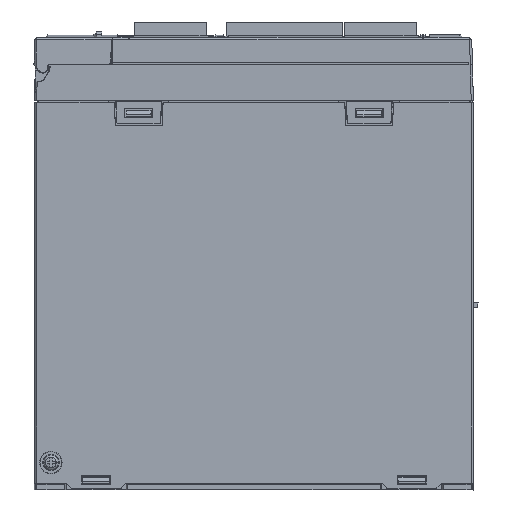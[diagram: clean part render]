
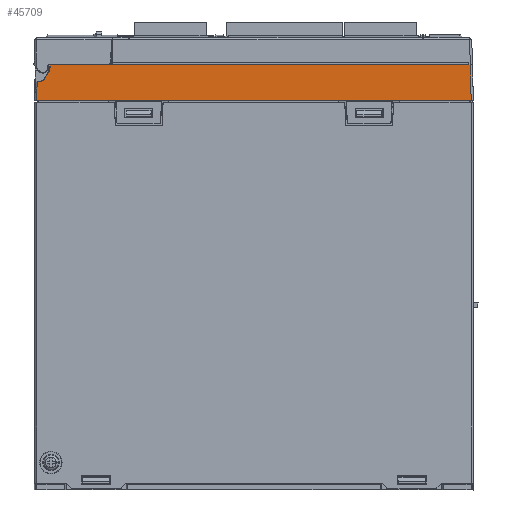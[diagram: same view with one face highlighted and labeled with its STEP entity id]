
A CAD part, left-side view. The second image highlights one B-rep face of the part: STEP entity #45709.
In plain terms, the highlighted planar face has unit normal (-1, 0, 0).
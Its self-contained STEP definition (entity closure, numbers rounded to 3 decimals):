
#4212=DIRECTION('',(0.,1.,0.));
#4213=VECTOR('',#4212,0.661);
#4214=CARTESIAN_POINT('',(0.,-158.859,
155.));
#4215=LINE('',#4214,#4213);
#4235=DIRECTION('',(0.,-0.026,1.));
#4236=VECTOR('',#4235,6.827);
#4237=CARTESIAN_POINT('',(0.,-0.8,142.));
#4238=LINE('',#4237,#4236);
#4239=CARTESIAN_POINT('',(0.,-1.845,151.));
#4240=DIRECTION('',(-1.,0.,0.));
#4241=DIRECTION('',(0.,0.,-1.));
#4242=AXIS2_PLACEMENT_3D('',#4239,#4240,#4241);
#4244=DIRECTION('',(0.,-0.5,0.866));
#4245=VECTOR('',#4244,3.175);
#4246=CARTESIAN_POINT('',(0.,-3.729,
149.913));
#4247=LINE('',#4246,#4245);
#4248=CARTESIAN_POINT('',(0.,-3.,154.));
#4249=DIRECTION('',(-1.,0.,0.));
#4250=DIRECTION('',(0.,-0.866,-0.5));
#4251=AXIS2_PLACEMENT_3D('',#4248,#4249,#4250);
#4253=DIRECTION('',(0.,0.,1.));
#4254=VECTOR('',#4253,0.07);
#4255=CARTESIAN_POINT('',(0.,-7.122,
154.93));
#4256=LINE('',#4255,#4254);
#4257=DIRECTION('',(0.,-1.,0.));
#4258=VECTOR('',#4257,21.203);
#4259=CARTESIAN_POINT('',(0.,-7.122,155.));
#4260=LINE('',#4259,#4258);
#4261=DIRECTION('',(0.,-1.,0.));
#4262=VECTOR('',#4261,129.873);
#4263=CARTESIAN_POINT('',(0.,-28.325,155.));
#4264=LINE('',#4263,#4262);
#4265=DIRECTION('',(0.,-0.026,-1.));
#4266=VECTOR('',#4265,13.004);
#4267=CARTESIAN_POINT('',(0.,-158.859,
155.));
#4268=LINE('',#4267,#4266);
#4269=DIRECTION('',(0.,1.,0.));
#4270=VECTOR('',#4269,26.2);
#4271=CARTESIAN_POINT('',(0.,-159.2,142.));
#4272=LINE('',#4271,#4270);
#4273=DIRECTION('',(0.,0.,1.));
#4274=VECTOR('',#4273,0.035);
#4275=CARTESIAN_POINT('',(0.,-133.,142.));
#4276=LINE('',#4275,#4274);
#4277=DIRECTION('',(0.,1.,0.));
#4278=VECTOR('',#4277,22.);
#4279=CARTESIAN_POINT('',(0.,-133.,142.035));
#4280=LINE('',#4279,#4278);
#4281=DIRECTION('',(0.,0.,-1.));
#4282=VECTOR('',#4281,0.035);
#4283=CARTESIAN_POINT('',(0.,-111.,142.035));
#4284=LINE('',#4283,#4282);
#4285=DIRECTION('',(0.,1.,0.));
#4286=VECTOR('',#4285,62.);
#4287=CARTESIAN_POINT('',(0.,-111.,142.));
#4288=LINE('',#4287,#4286);
#4289=DIRECTION('',(0.,0.,1.));
#4290=VECTOR('',#4289,0.035);
#4291=CARTESIAN_POINT('',(0.,-49.,142.));
#4292=LINE('',#4291,#4290);
#4293=DIRECTION('',(0.,1.,0.));
#4294=VECTOR('',#4293,22.);
#4295=CARTESIAN_POINT('',(0.,-49.,142.035));
#4296=LINE('',#4295,#4294);
#4297=DIRECTION('',(0.,1.,0.));
#4298=VECTOR('',#4297,26.2);
#4299=CARTESIAN_POINT('',(0.,-27.,142.));
#4300=LINE('',#4299,#4298);
#4386=DIRECTION('',(0.,0.,1.));
#4387=VECTOR('',#4386,0.035);
#4388=CARTESIAN_POINT('',(0.,-27.,142.));
#4389=LINE('',#4388,#4387);
#6775=DIRECTION('',(0.,1.,0.));
#6776=VECTOR('',#6775,1.447);
#6777=CARTESIAN_POINT('',(0.,-7.122,
154.93));
#6778=LINE('',#6777,#6776);
#6791=DIRECTION('',(0.,0.,-1.));
#6792=VECTOR('',#6791,0.93);
#6793=CARTESIAN_POINT('',(0.,-5.675,
154.93));
#6794=LINE('',#6793,#6792);
#6819=DIRECTION('',(0.,1.,0.));
#6820=VECTOR('',#6819,0.866);
#6821=CARTESIAN_POINT('',(0.,-1.845,
148.825));
#6822=LINE('',#6821,#6820);
#34093=CARTESIAN_POINT('',(0.,-158.859,
155.));
#34094=VERTEX_POINT('',#34093);
#34095=CARTESIAN_POINT('',(0.,-158.199,155.));
#34096=VERTEX_POINT('',#34095);
#34099=CARTESIAN_POINT('',(0.,-159.2,142.));
#34100=VERTEX_POINT('',#34099);
#34101=CARTESIAN_POINT('',(0.,-0.8,142.));
#34102=CARTESIAN_POINT('',(0.,-0.979,
148.825));
#34103=VERTEX_POINT('',#34101);
#34104=VERTEX_POINT('',#34102);
#34105=CARTESIAN_POINT('',(0.,-1.845,
148.825));
#34106=VERTEX_POINT('',#34105);
#34107=CARTESIAN_POINT('',(0.,-3.729,149.913));
#34108=VERTEX_POINT('',#34107);
#34109=CARTESIAN_POINT('',(0.,-5.317,
152.663));
#34110=VERTEX_POINT('',#34109);
#34111=CARTESIAN_POINT('',(0.,-5.675,154.));
#34112=VERTEX_POINT('',#34111);
#34113=CARTESIAN_POINT('',(0.,-5.675,
154.93));
#34114=VERTEX_POINT('',#34113);
#34115=CARTESIAN_POINT('',(0.,-7.122,
154.93));
#34116=VERTEX_POINT('',#34115);
#34117=CARTESIAN_POINT('',(0.,-7.122,155.));
#34118=VERTEX_POINT('',#34117);
#34119=CARTESIAN_POINT('',(0.,-28.325,155.));
#34120=VERTEX_POINT('',#34119);
#34121=CARTESIAN_POINT('',(0.,-133.,142.));
#34122=VERTEX_POINT('',#34121);
#34123=CARTESIAN_POINT('',(0.,-133.,142.035));
#34124=VERTEX_POINT('',#34123);
#34125=CARTESIAN_POINT('',(0.,-111.,142.035));
#34126=VERTEX_POINT('',#34125);
#34127=CARTESIAN_POINT('',(0.,-111.,142.));
#34128=VERTEX_POINT('',#34127);
#34129=CARTESIAN_POINT('',(0.,-49.,142.));
#34130=VERTEX_POINT('',#34129);
#34131=CARTESIAN_POINT('',(0.,-49.,142.035));
#34132=VERTEX_POINT('',#34131);
#34133=CARTESIAN_POINT('',(0.,-27.,142.035));
#34134=VERTEX_POINT('',#34133);
#34135=CARTESIAN_POINT('',(0.,-27.,142.));
#34136=VERTEX_POINT('',#34135);
#45662=CARTESIAN_POINT('',(0.,0.,142.));
#45663=DIRECTION('',(-1.,0.,0.));
#45664=DIRECTION('',(0.,-1.,0.));
#45665=AXIS2_PLACEMENT_3D('',#45662,#45663,#45664);
#45666=PLANE('',#45665);
#45668=ORIENTED_EDGE('',*,*,#45667,.T.);
#45670=ORIENTED_EDGE('',*,*,#45669,.F.);
#45672=ORIENTED_EDGE('',*,*,#45671,.T.);
#45674=ORIENTED_EDGE('',*,*,#45673,.T.);
#45676=ORIENTED_EDGE('',*,*,#45675,.T.);
#45678=ORIENTED_EDGE('',*,*,#45677,.F.);
#45680=ORIENTED_EDGE('',*,*,#45679,.F.);
#45682=ORIENTED_EDGE('',*,*,#45681,.T.);
#45684=ORIENTED_EDGE('',*,*,#45683,.T.);
#45686=ORIENTED_EDGE('',*,*,#45685,.T.);
#45687=ORIENTED_EDGE('',*,*,#45624,.F.);
#45688=ORIENTED_EDGE('',*,*,#45653,.T.);
#45690=ORIENTED_EDGE('',*,*,#45689,.T.);
#45692=ORIENTED_EDGE('',*,*,#45691,.T.);
#45694=ORIENTED_EDGE('',*,*,#45693,.T.);
#45696=ORIENTED_EDGE('',*,*,#45695,.T.);
#45698=ORIENTED_EDGE('',*,*,#45697,.T.);
#45700=ORIENTED_EDGE('',*,*,#45699,.T.);
#45702=ORIENTED_EDGE('',*,*,#45701,.T.);
#45704=ORIENTED_EDGE('',*,*,#45703,.F.);
#45706=ORIENTED_EDGE('',*,*,#45705,.T.);
#45707=EDGE_LOOP('',(#45668,#45670,#45672,#45674,#45676,#45678,#45680,#45682,
#45684,#45686,#45687,#45688,#45690,#45692,#45694,#45696,#45698,#45700,#45702,
#45704,#45706));
#45708=FACE_OUTER_BOUND('',#45707,.F.);
#45709=ADVANCED_FACE('',(#45708),#45666,.T.);
#4243=CIRCLE('',#4242,2.175);
#4252=CIRCLE('',#4251,2.675);
#45624=EDGE_CURVE('',#34094,#34096,#4215,.T.);
#45653=EDGE_CURVE('',#34094,#34100,#4268,.T.);
#45667=EDGE_CURVE('',#34103,#34104,#4238,.T.);
#45669=EDGE_CURVE('',#34106,#34104,#6822,.T.);
#45671=EDGE_CURVE('',#34106,#34108,#4243,.T.);
#45673=EDGE_CURVE('',#34108,#34110,#4247,.T.);
#45675=EDGE_CURVE('',#34110,#34112,#4252,.T.);
#45677=EDGE_CURVE('',#34114,#34112,#6794,.T.);
#45679=EDGE_CURVE('',#34116,#34114,#6778,.T.);
#45681=EDGE_CURVE('',#34116,#34118,#4256,.T.);
#45683=EDGE_CURVE('',#34118,#34120,#4260,.T.);
#45685=EDGE_CURVE('',#34120,#34096,#4264,.T.);
#45689=EDGE_CURVE('',#34100,#34122,#4272,.T.);
#45691=EDGE_CURVE('',#34122,#34124,#4276,.T.);
#45693=EDGE_CURVE('',#34124,#34126,#4280,.T.);
#45695=EDGE_CURVE('',#34126,#34128,#4284,.T.);
#45697=EDGE_CURVE('',#34128,#34130,#4288,.T.);
#45699=EDGE_CURVE('',#34130,#34132,#4292,.T.);
#45701=EDGE_CURVE('',#34132,#34134,#4296,.T.);
#45703=EDGE_CURVE('',#34136,#34134,#4389,.T.);
#45705=EDGE_CURVE('',#34136,#34103,#4300,.T.);
